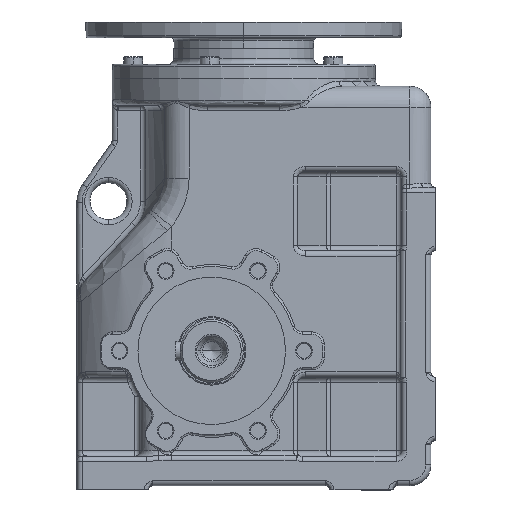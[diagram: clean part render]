
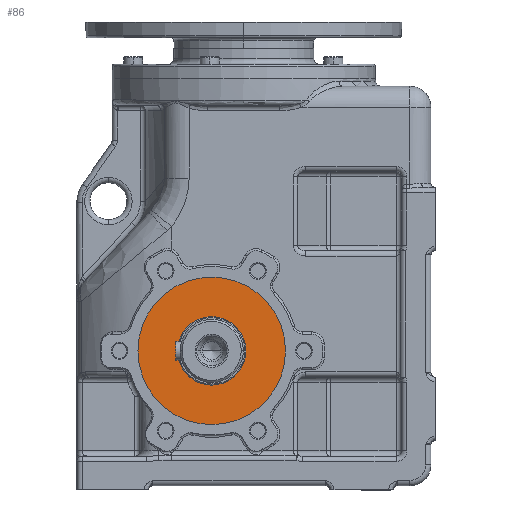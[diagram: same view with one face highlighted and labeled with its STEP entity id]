
A CAD part, left-side view. The second image highlights one B-rep face of the part: STEP entity #86.
In plain terms, the highlighted planar face has unit normal (-1, 0, 0).
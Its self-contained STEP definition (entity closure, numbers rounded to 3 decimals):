
#86 = ADVANCED_FACE ( 'NONE', ( #119043, #119041 ), #118996, .T. ) ;
#122 = ORIENTED_EDGE ( 'NONE', *, *, #5385, .F. ) ;
#213 = CARTESIAN_POINT ( 'NONE',  ( -114., -32.5, 0. ) ) ;
#2756 = EDGE_LOOP ( 'NONE', ( #122, #5381 ) ) ;
#4591 = ORIENTED_EDGE ( 'NONE', *, *, #118541, .T. ) ;
#5331 = EDGE_LOOP ( 'NONE', ( #5417, #4591 ) ) ;
#5381 = ORIENTED_EDGE ( 'NONE', *, *, #9742, .F. ) ;
#5385 = EDGE_CURVE ( 'NONE', #9950, #9717, #120604, .T. ) ;
#5417 = ORIENTED_EDGE ( 'NONE', *, *, #129003, .T. ) ;
#8662 = DIRECTION ( 'NONE',  ( 0., 0., 1. ) ) ;
#8663 = DIRECTION ( 'NONE',  ( -1., 0., 0. ) ) ;
#8664 = CARTESIAN_POINT ( 'NONE',  ( -114., 0., 0. ) ) ;
#8665 = AXIS2_PLACEMENT_3D ( 'NONE', #8664, #8663, #8662 ) ;
#8666 = CIRCLE ( 'NONE', #8665, 70. ) ;
#9717 = VERTEX_POINT ( 'NONE', #213 ) ;
#9742 = EDGE_CURVE ( 'NONE', #9717, #9950, #21636, .T. ) ;
#9950 = VERTEX_POINT ( 'NONE', #22076 ) ;
#21625 = DIRECTION ( 'NONE',  ( 0., 0., 1. ) ) ;
#21626 = DIRECTION ( 'NONE',  ( -1., 0., 0. ) ) ;
#21627 = CARTESIAN_POINT ( 'NONE',  ( -114., 0., 0. ) ) ;
#21628 = AXIS2_PLACEMENT_3D ( 'NONE', #21627, #21626, #21625 ) ;
#21636 = CIRCLE ( 'NONE', #21628, 32.5 ) ;
#22076 = CARTESIAN_POINT ( 'NONE',  ( -114., 32.5, 0. ) ) ;
#118532 = VERTEX_POINT ( 'NONE', #124972 ) ;
#118541 = EDGE_CURVE ( 'NONE', #118532, #118554, #125069, .T. ) ;
#118554 = VERTEX_POINT ( 'NONE', #125034 ) ;
#118996 = PLANE ( 'NONE',  #119130 ) ;
#119041 = FACE_OUTER_BOUND ( 'NONE', #5331, .T. ) ;
#119043 = FACE_BOUND ( 'NONE', #2756, .T. ) ;
#119123 = DIRECTION ( 'NONE',  ( 0., 0., 1. ) ) ;
#119126 = DIRECTION ( 'NONE',  ( -1., 0., 0. ) ) ;
#119128 = CARTESIAN_POINT ( 'NONE',  ( -114., 0., 0. ) ) ;
#119130 = AXIS2_PLACEMENT_3D ( 'NONE', #119128, #119126, #119123 ) ;
#120599 = DIRECTION ( 'NONE',  ( 0., 0., 1. ) ) ;
#120601 = DIRECTION ( 'NONE',  ( -1., 0., 0. ) ) ;
#120602 = CARTESIAN_POINT ( 'NONE',  ( -114., 0., 0. ) ) ;
#120603 = AXIS2_PLACEMENT_3D ( 'NONE', #120602, #120601, #120599 ) ;
#120604 = CIRCLE ( 'NONE', #120603, 32.5 ) ;
#124972 = CARTESIAN_POINT ( 'NONE',  ( -114., 0., -70. ) ) ;
#125034 = CARTESIAN_POINT ( 'NONE',  ( -114., 0., 70. ) ) ;
#125064 = DIRECTION ( 'NONE',  ( 0., 0., 1. ) ) ;
#125065 = DIRECTION ( 'NONE',  ( -1., 0., 0. ) ) ;
#125066 = CARTESIAN_POINT ( 'NONE',  ( -114., 0., 0. ) ) ;
#125068 = AXIS2_PLACEMENT_3D ( 'NONE', #125066, #125065, #125064 ) ;
#125069 = CIRCLE ( 'NONE', #125068, 70. ) ;
#129003 = EDGE_CURVE ( 'NONE', #118554, #118532, #8666, .T. ) ;
